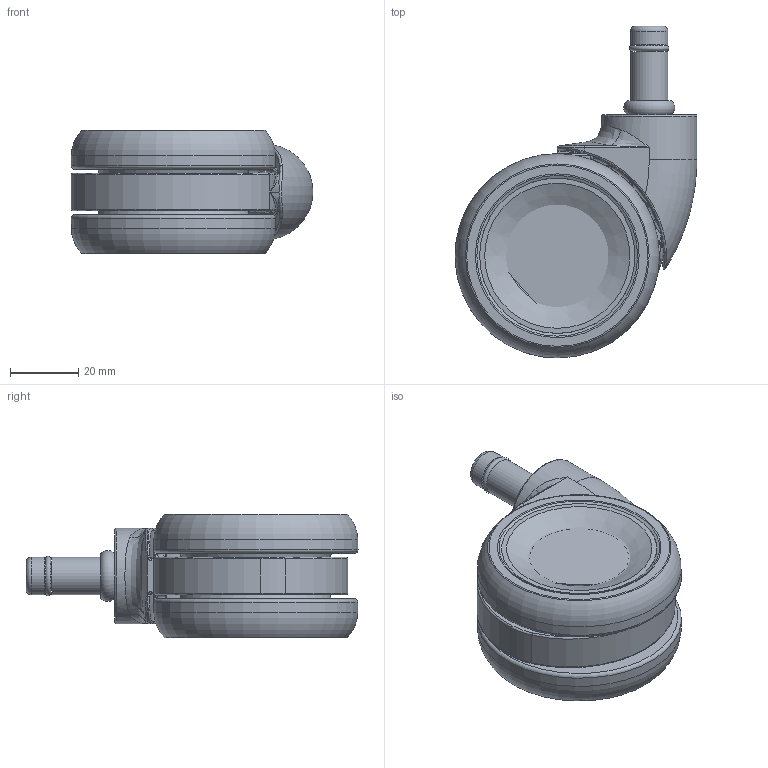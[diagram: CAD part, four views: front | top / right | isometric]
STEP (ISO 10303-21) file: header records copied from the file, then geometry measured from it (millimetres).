
FILE_DESCRIPTION (( 'STEP AP203' ), '1' );
FILE_NAME ('K09U28(リング).STEP', '2025-04-11T04:20:39', ( '' ), ( '' ), 'SwSTEP 2.0', 'SolidWorks 2025', '' );
FILE_SCHEMA (( 'CONFIG_CONTROL_DESIGN' ));
Length unit declared in the file: millimetre
Products named in the file (5): 28カバー_2; TPU車輪; K09U28(リング); リング縦軸; 本体
Assembly tree (5 placements, depth 2):
  K09U28(リング)
    本体
    リング縦軸
    28カバー_2
    TPU車輪  x2
Bounding box: 71 x 97.5 x 36.4 mm (x, y, z)
Volume: 82678.8 mm3; surface area: 59879.4 mm2
Topology: 10 solids, 11 shells, 703 faces, 1906 edges, 1140 vertices
Faces by surface type: plane 271, cylinder 151, torus 97, bspline 91, cone 57, sphere 36
Full cylindrical faces by diameter (mm): 2.3 x45, 7.5 x1, 7.7 x1, 9 x2, 9.4 x2, 11 x2, 15.6 x1, 16 x2, 16.2 x1, 17 x1, 28 x1, 34 x2, 34.95 x1, 35 x1, 36 x4, 36.4 x4, 38.35 x3, 44.15 x3, 46 x2, 46.95 x1, 47 x1, 54.897 x4
Entity records: 23432 total; most frequent: CARTESIAN_POINT 9866, ORIENTED_EDGE 2656, DIRECTION 2603, EDGE_CURVE 1328, AXIS2_PLACEMENT_3D 1152, VERTEX_POINT 869, EDGE_LOOP 851, FACE_OUTER_BOUND 693
